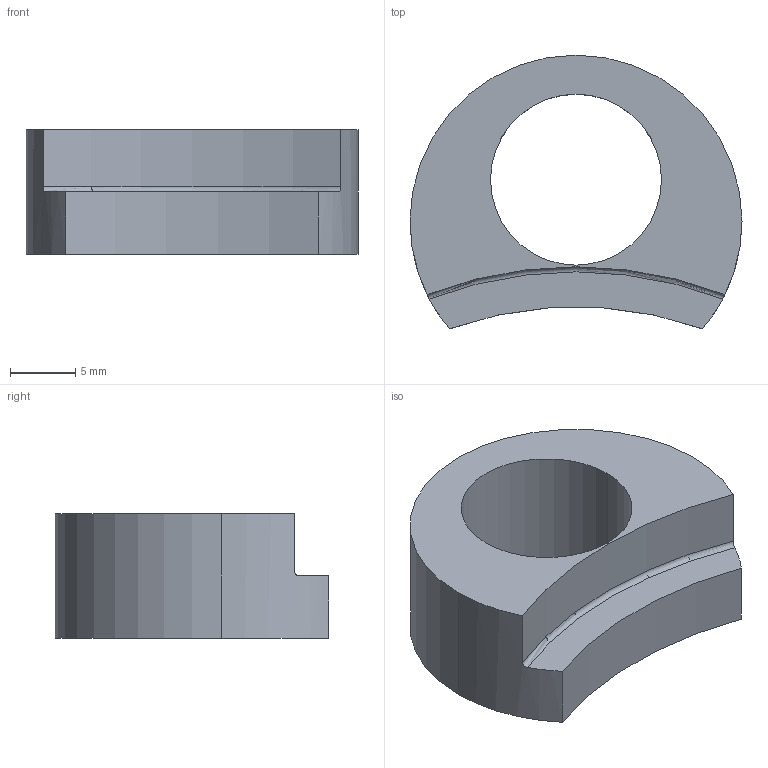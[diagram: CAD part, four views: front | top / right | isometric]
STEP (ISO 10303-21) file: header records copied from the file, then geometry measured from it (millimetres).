
FILE_DESCRIPTION (( 'STEP AP214' ), '1' );
FILE_NAME ('GK125-200 Flange Clamp.STEP', '2010-11-16T14:43:31', ( ' ' ), ( '' ), 'SwSTEP 2.0', 'SolidWorks 2010', '' );
FILE_SCHEMA (( 'AUTOMOTIVE_DESIGN' ));
Length unit declared in the file: inch
Products named in the file (1): GK125-200 Flange Clamp
Bounding box: 25.4 x 20.93 x 9.53 mm (x, y, z)
Volume: 2452.7 mm3; surface area: 1694.1 mm2
Topology: 1 solids, 1 shells, 11 faces, 27 edges, 18 vertices
Faces by surface type: cylinder 7, plane 3, torus 1
Entity records: 414 total; most frequent: CARTESIAN_POINT 67, DIRECTION 66, ORIENTED_EDGE 54, AXIS2_PLACEMENT_3D 29, EDGE_CURVE 27, VERTEX_POINT 18, CIRCLE 17, EDGE_LOOP 13
